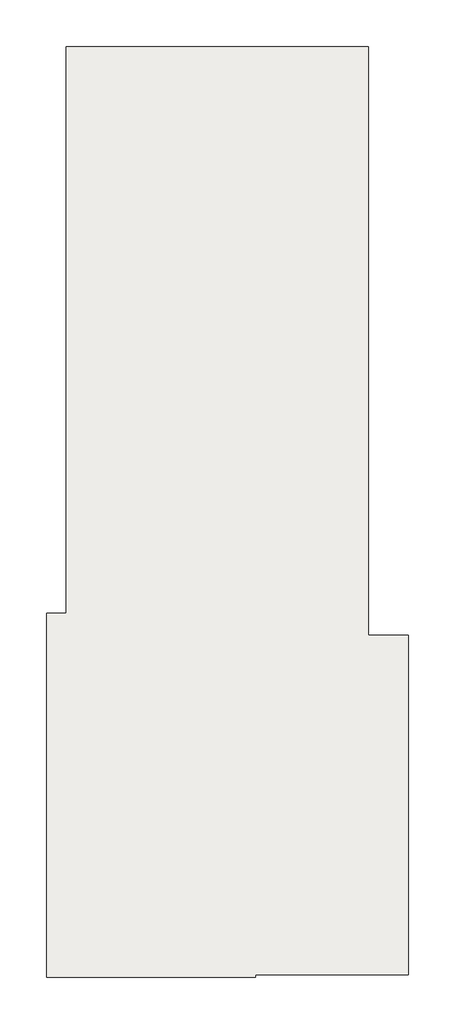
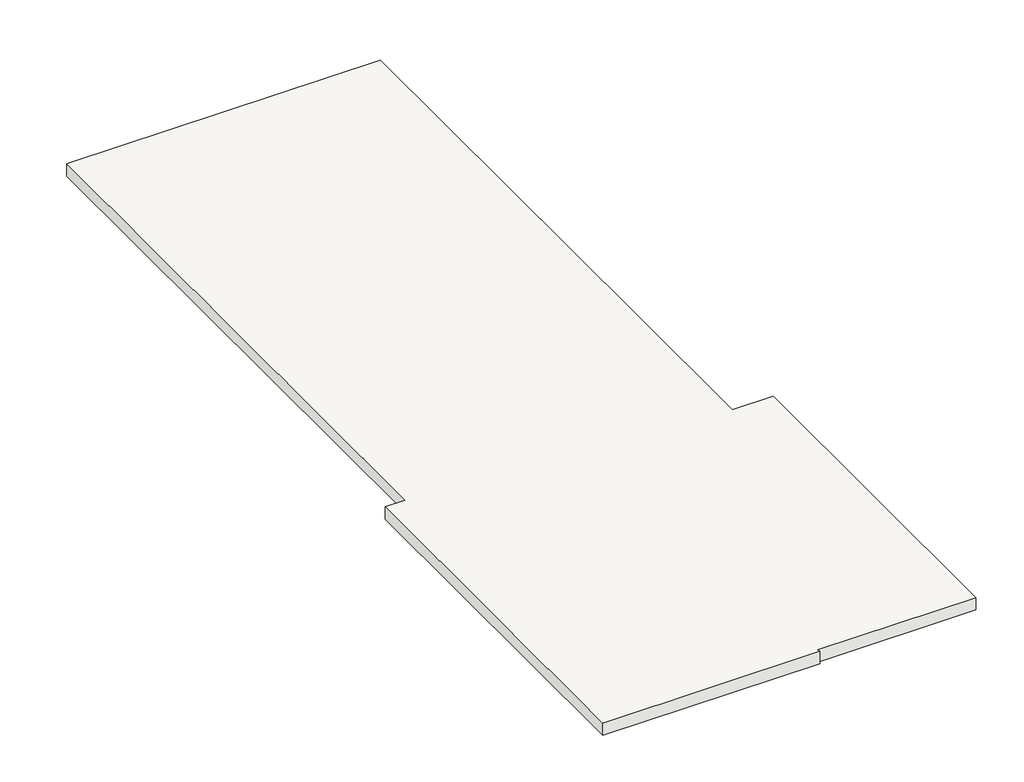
# One storey: 1 roof.
"""IFC4 building model written with IfcOpenShell, lengths in millimetres."""

import ifcopenshell
import ifcopenshell.guid

model = None  # the IFC model being written
_history = None  # IfcOwnerHistory: only IFC2X3 demands one
_inside = {}  # id of a spatial element -> (the spatial element, [elements in it])
_under = {}  # id of a project, library or spatial element -> (it, [spatial elements below it])
_declared = {}  # id of a project -> (the project, [libraries it declares])
_typed = {}  # id of a type object -> (the type object, [elements of that type])
_made_of = {}  # id of a material, layer set ... -> (it, [elements and type objects made of it])


def new_model(schema):
    """Start an empty IFC model of exactly this schema.

    Asked for "IFC4X3", IfcOpenShell would pick the latest addendum, in which some entities
    have other attributes; the version numbers below select the first issue.
    IFC2X3 requires an IfcOwnerHistory on every rooted entity: one is made here for all.
    """
    global model, _history
    if schema == "IFC4X3":
        model = ifcopenshell.file(schema_version=(4, 3, 0, 0))
    else:
        model = ifcopenshell.file(schema=schema)
    _inside.clear()
    _under.clear()
    _declared.clear()
    _typed.clear()
    _made_of.clear()
    _history = None
    if model.schema == "IFC2X3":
        org = make("IfcOrganization", Name="unknown")
        user = make(
            "IfcPersonAndOrganization",
            ThePerson=make("IfcPerson", FamilyName="unknown"),
            TheOrganization=org,
        )
        app = make(
            "IfcApplication",
            ApplicationDeveloper=org,
            Version="unknown",
            ApplicationFullName="unknown",
            ApplicationIdentifier="unknown",
        )
        _history = make(
            "IfcOwnerHistory",
            OwningUser=user,
            OwningApplication=app,
            ChangeAction="ADDED",
            CreationDate=0,
        )
    return model


def make(cls, **values):
    """One entity of the class cls with the attributes given. An attribute that is None is left unset."""
    return model.create_entity(
        cls, **{name: value for name, value in values.items() if value is not None}
    )


def rooted(cls, **values):
    """An entity with a GlobalId (a new one), such as an element, a storey or a relation."""
    return make(cls, GlobalId=ifcopenshell.guid.new(), OwnerHistory=_history, **values)


def si_unit(unit_type, name, prefix=None):
    """IfcSIUnit, for example si_unit("LENGTHUNIT", "METRE", prefix="MILLI")."""
    return make("IfcSIUnit", UnitType=unit_type, Prefix=prefix, Name=name)


def assignment(units):
    """IfcUnitAssignment: the units of a project."""
    return None if units is None else make("IfcUnitAssignment", Units=units)


def point(xyz):
    """IfcCartesianPoint."""
    return None if xyz is None else make("IfcCartesianPoint", Coordinates=xyz)


def direction(xyz):
    """IfcDirection."""
    return None if xyz is None else make("IfcDirection", DirectionRatios=xyz)


def frame(location, z_axis=None, x_axis=None):
    """IfcAxis2Placement3D, a coordinate frame: its origin and axes. An axis left out is left unset."""
    return make(
        "IfcAxis2Placement3D",
        Location=point(location),
        Axis=direction(z_axis),
        RefDirection=direction(x_axis),
    )


def origin():
    """The frame at (0, 0, 0) with its axes left unset."""
    return frame((0.0, 0.0, 0.0))


def place(relative_to, where):
    """IfcLocalPlacement: puts the frame where relative to a parent placement (None: the world)."""
    return make(
        "IfcLocalPlacement", PlacementRelTo=relative_to, RelativePlacement=where
    )


def context(
    kind, dimensions, precision=None, world=None, true_north=None, identifier=None
):
    """IfcGeometricRepresentationContext, for example the 3D "Model" context."""
    return make(
        "IfcGeometricRepresentationContext",
        ContextIdentifier=identifier,
        ContextType=kind,
        CoordinateSpaceDimension=dimensions,
        Precision=precision,
        WorldCoordinateSystem=world,
        TrueNorth=true_north,
    )


def project(units=None, contexts=None):
    """IfcProject with its units and contexts."""
    return rooted(
        "IfcProject",
        Name="project",
        RepresentationContexts=contexts,
        UnitsInContext=assignment(units),
    )


def spatial(cls, under=None, at=None, **own):
    """A site, building, storey or space (cls), placed at a placement, below another one or the project."""
    s = rooted(cls, ObjectPlacement=at, **own)
    if under is not None:
        _under.setdefault(under.id(), (under, []))[1].append(s)
    return s


def polyline(points):
    """IfcPolyline through the points."""
    return make("IfcPolyline", Points=[point(p) for p in points])


def outline(outer, holes=None, kind="AREA"):
    """IfcArbitraryClosedProfileDef: a profile drawn as a closed curve; with holes, ...WithVoids."""
    if holes is None:
        return make("IfcArbitraryClosedProfileDef", ProfileType=kind, OuterCurve=outer)
    return make(
        "IfcArbitraryProfileDefWithVoids",
        ProfileType=kind,
        OuterCurve=outer,
        InnerCurves=holes,
    )


def extrude(swept, where, along, depth):
    """IfcExtrudedAreaSolid: the profile swept, set in the frame where, extruded along a direction by depth."""
    return make(
        "IfcExtrudedAreaSolid",
        SweptArea=swept,
        Position=where,
        ExtrudedDirection=direction(along),
        Depth=depth,
    )


def shape(context_of_items, identifier, shape_type, items):
    """IfcShapeRepresentation: the items that make up one representation, for example the "Body"."""
    return make(
        "IfcShapeRepresentation",
        ContextOfItems=context_of_items,
        RepresentationIdentifier=identifier,
        RepresentationType=shape_type,
        Items=items,
    )


def made_of(thing, what):
    """Note that an element or type object is made of a material, layer set ...; save() writes the relation."""
    if what is not None:
        _made_of.setdefault(what.id(), (what, []))[1].append(thing)
    return thing


def element(
    cls,
    number,
    at=None,
    inside=None,
    cuts=None,
    type_object=None,
    material=None,
    context=None,
    identifier="Body",
    shape_type=None,
    held_by="IfcProductDefinitionShape",
    body=None,
    shapes=None,
    **own,
):
    """One element of the class cls, such as IfcWall. Its Tag is "e" and its number.

    at: its placement. inside: the storey or other place that contains it. cuts: it is an
    opening in that element (IfcRelVoidsElement). A single representation is given by context,
    identifier, shape_type and body (its items); several are given by shapes. held_by: the class
    of the entity that holds the representations. save() writes the other relations.
    """
    e = rooted(cls, Tag="e%d" % number, ObjectPlacement=at, **own)
    if body is not None:
        shapes = [shape(context, identifier, shape_type, body)]
    if shapes is not None:
        e.Representation = make(held_by, Representations=shapes)
    if inside is not None:
        _inside.setdefault(inside.id(), (inside, []))[1].append(e)
    if cuts is not None:
        rooted(
            "IfcRelVoidsElement", RelatingBuildingElement=cuts, RelatedOpeningElement=e
        )
    if type_object is not None:
        _typed.setdefault(type_object.id(), (type_object, []))[1].append(e)
    return made_of(e, material)


def aggregate(whole, parts):
    """IfcRelAggregates: a whole, such as a stair, and the parts it consists of."""
    return rooted("IfcRelAggregates", RelatingObject=whole, RelatedObjects=parts)


def save(model, path):
    """Write the relations noted so far, then the file.

    IfcRelAggregates (storeys below a building ...), IfcRelContainedInSpatialStructure (elements
    in a storey), IfcRelDefinesByType, IfcRelAssociatesMaterial and IfcRelDeclares: one each for
    every whole, place, type object, material and project.
    """
    for whole, parts in _under.values():
        aggregate(whole, parts)
    for where, things in _inside.values():
        rooted(
            "IfcRelContainedInSpatialStructure",
            RelatedElements=things,
            RelatingStructure=where,
        )
    for kind, things in _typed.values():
        rooted("IfcRelDefinesByType", RelatedObjects=things, RelatingType=kind)
    for what, things in _made_of.values():
        rooted("IfcRelAssociatesMaterial", RelatedObjects=things, RelatingMaterial=what)
    for by, libraries in _declared.values():
        rooted("IfcRelDeclares", RelatingContext=by, RelatedDefinitions=libraries)
    model.write(path)


model = new_model("IFC4")

# Units and contexts
model_context = context("Model", 3, world=origin())
ifc_project = project(units=[si_unit("LENGTHUNIT", "METRE", prefix="MILLI")], contexts=[model_context])

# Site, building, storey
site = spatial("IfcSite", under=ifc_project)
building = spatial("IfcBuilding", under=site)
storey = spatial("IfcBuildingStorey", under=building, Name="U/S of Ceiling", Elevation=5384.8)

# Roof
placement = place(None, origin())
element("IfcRoof", 1, ObjectType="Planitar Flat Roof - 11.5\"", at=placement, inside=storey, context=model_context, shape_type="SweptSolid", body=[
    extrude(outline(polyline([(-3301.4302402, 12350.1038353), (3829.6197598, 12350.1038353), (3829.6197598, 2240.9038353), (3829.6197598, -1524.6461647), (4763.0697598, -1524.6461647), (4763.0697598, -9519.2961647), (1168.9697598, -9519.2961647), (1168.9697598, -9582.7961647), (-3764.9802402, -9582.7961647), (-3764.9802402, -997.5961647), (-3301.4302402, -997.5961647), (-3301.4302402, 12350.1038353)])), frame((0.0, 0.0, 5676.9), z_axis=(0.0, 0.0, 1.0), x_axis=(1.0, 0.0, 0.0)), (0.0, 0.0, 1.0), 292.1),
])

save(model, "model.ifc")
